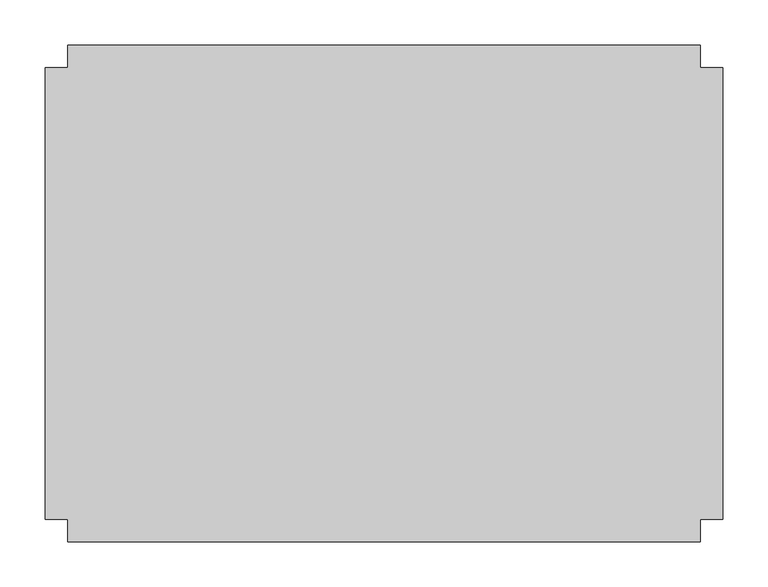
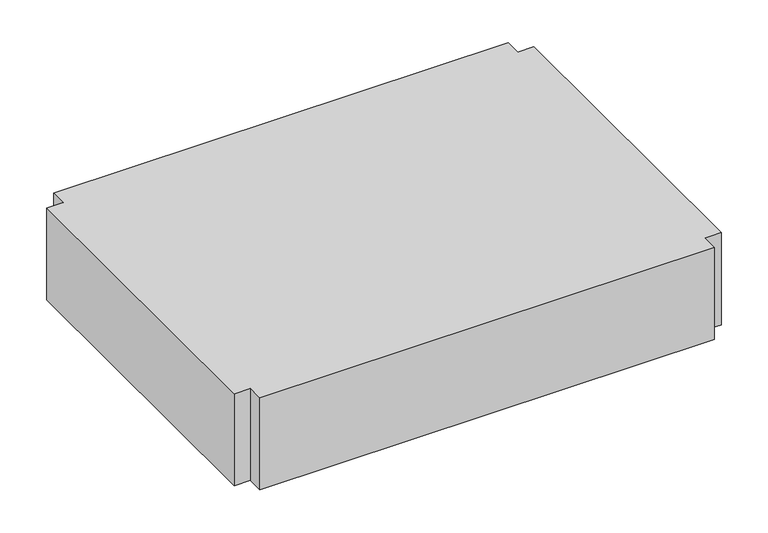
"""IFC4 building model written with IfcOpenShell, lengths in millimetres: duct fitting geometry, M_Cruz rectangular : Estándar."""

from ifc_helpers import new_model, si_unit, frame, origin, place, context, project, spatial, polyline, outline, extrude, source, transform, mapped, element, save


def duct_fitting_83816ddf(model_context):
    return source(origin(), model_context, "Body", "SweptSolid", [
        extrude(outline(polyline([(350.0, -275.0), (-350.0, -275.0), (-350.0, -250.0), (-375.0, -250.0), (-375.0, 250.0), (-350.0, 250.0), (-350.0, 275.0), (350.0, 275.0), (350.0, 250.0), (375.0, 250.0), (375.0, -250.0), (350.0, -250.0), (350.0, -275.0)])), frame((0.0, 0.0, -75.0), z_axis=(0.0, 0.0, 1.0), x_axis=(1.0, 0.0, 0.0)), (0.0, 0.0, 1.0), 150.0),
    ])


if __name__ == "__main__":
    model = new_model("IFC4")
    model_context = context("Model", 3, world=origin())
    ifc_project = project(units=[si_unit("LENGTHUNIT", "METRE", prefix="MILLI")], contexts=[model_context])
    site = spatial("IfcSite", under=ifc_project)
    building = spatial("IfcBuilding", under=site)
    placement = place(None, origin())
    duct_fitting_shape = duct_fitting_83816ddf(model_context)
    element("IfcDuctFitting", 1, ObjectType="M_Cruz rectangular : Estándar", at=placement, inside=building, context=model_context, shape_type="MappedRepresentation", body=[
        mapped(duct_fitting_shape, transform((0.0, 0.0, 0.0), x_axis=(1.0, 0.0, 0.0), y_axis=(0.0, 1.0, 0.0), z_axis=(0.0, 0.0, 1.0))),
    ])
    save(model, "model.ifc")
